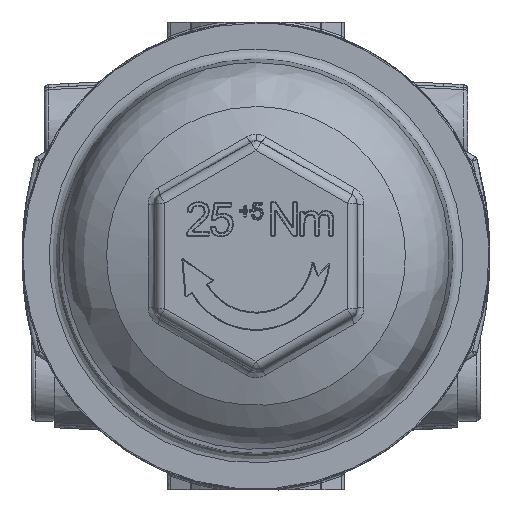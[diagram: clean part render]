
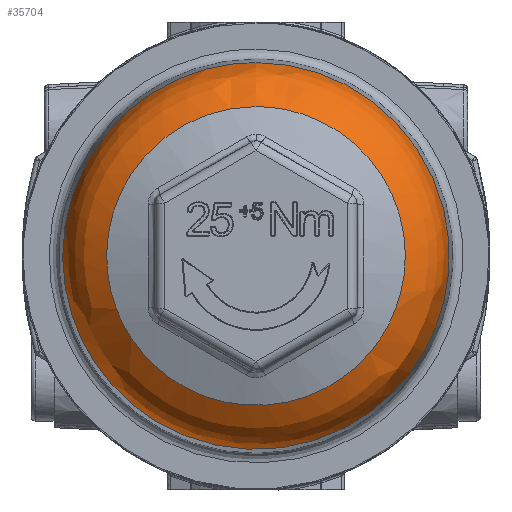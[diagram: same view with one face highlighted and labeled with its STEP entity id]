
A CAD part, front view. The second image highlights one B-rep face of the part: STEP entity #35704.
In plain terms, the highlighted free-form (B-spline) face has degree [2, 2] with [7, 3] control points.
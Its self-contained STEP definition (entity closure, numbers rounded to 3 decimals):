
#35602=CARTESIAN_POINT('V79',(0.0,-131.099,
   30.318));
#35603=VERTEX_POINT('V79',#35602);
#35617=CARTESIAN_POINT('E113',(0.0,-131.099,
   30.318));
#35618=CARTESIAN_POINT('E113',(-52.512,
   -131.099,30.318));
#35619=CARTESIAN_POINT('E113',(-26.256,
   -131.099,-15.159));
#35620=CARTESIAN_POINT('E113',(0.,-131.099,
   -60.636));
#35621=CARTESIAN_POINT('E113',(26.256,
   -131.099,-15.159));
#35622=CARTESIAN_POINT('E113',(52.512,
   -131.099,30.318));
#35623=CARTESIAN_POINT('E113',(0.0,-131.099,
   30.318));
#35631=(BOUNDED_CURVE()B_SPLINE_CURVE(2,(#35617,#35618,#35619,
   #35620,#35621,#35622,#35623),.CIRCULAR_ARC.,.T.,.U.)
   B_SPLINE_CURVE_WITH_KNOTS((3,2,2,3),(0.0,6.584,
   13.168,19.753),.UNSPECIFIED.)CURVE()
   GEOMETRIC_REPRESENTATION_ITEM()RATIONAL_B_SPLINE_CURVE((1.0,
   0.5,1.0,0.5,1.0,0.5,1.0)
   )REPRESENTATION_ITEM('E113'));
#35632=EDGE_CURVE('E113',#35603,#35603,#35631,.T.);
#35639=CARTESIAN_POINT('F52',(0.0,-131.099,
   30.318));
#35640=CARTESIAN_POINT('F52',(52.512,
   -131.099,30.318));
#35641=CARTESIAN_POINT('F52',(26.256,
   -131.099,-15.159));
#35642=CARTESIAN_POINT('F52',(0.,-131.099,
   -60.636));
#35643=CARTESIAN_POINT('F52',(-26.256,
   -131.099,-15.159));
#35644=CARTESIAN_POINT('F52',(-52.512,
   -131.099,30.318));
#35645=CARTESIAN_POINT('F52',(0.0,-131.099,
   30.318));
#35646=CARTESIAN_POINT('F52',(0.0,-127.187,
   39.169));
#35647=CARTESIAN_POINT('F52',(67.843,
   -127.187,39.169));
#35648=CARTESIAN_POINT('F52',(33.922,
   -127.187,-19.585));
#35649=CARTESIAN_POINT('F52',(0.,-127.187,
   -78.339));
#35650=CARTESIAN_POINT('F52',(-33.922,
   -127.187,-19.585));
#35651=CARTESIAN_POINT('F52',(-67.843,
   -127.187,39.169));
#35652=CARTESIAN_POINT('F52',(0.0,-127.187,
   39.169));
#35653=CARTESIAN_POINT('F52',(0.0,-117.51,
   39.254));
#35654=CARTESIAN_POINT('F52',(67.99,
   -117.51,39.254));
#35655=CARTESIAN_POINT('F52',(33.995,
   -117.51,-19.627));
#35656=CARTESIAN_POINT('F52',(0.,-117.51,
   -78.508));
#35657=CARTESIAN_POINT('F52',(-33.995,
   -117.51,-19.627));
#35658=CARTESIAN_POINT('F52',(-67.99,
   -117.51,39.254));
#35659=CARTESIAN_POINT('F52',(0.0,-117.51,
   39.254));
#35667=(BOUNDED_SURFACE()B_SPLINE_SURFACE(2,2,((#35639,#35646,
   #35653),(#35640,#35647,#35654),(#35641,#35648,#35655),(
   #35642,#35649,#35656),(#35643,#35650,#35657),(#35644,#35651,
   #35658),(#35645,#35652,#35659)),.TOROIDAL_SURF.,.T.,.F.,.U.)
   B_SPLINE_SURFACE_WITH_KNOTS((3,2,2,3),(3,3),(0.0,
   6.584,13.168,19.753),(0.0,
   1.0),.UNSPECIFIED.)GEOMETRIC_REPRESENTATION_ITEM()
   RATIONAL_B_SPLINE_SURFACE(((1.0,0.84,1.0),(
   0.5,0.42,0.5),(1.0,
   0.84,1.0),(0.5,0.42,
   0.5),(1.0,0.84,1.0),(
   0.5,0.42,0.5),(1.0,
   0.84,1.0)))REPRESENTATION_ITEM('F52')SURFACE());
#35668=CARTESIAN_POINT('V90',(0.0,-117.51,
   39.254));
#35669=VERTEX_POINT('V90',#35668);
#35670=CARTESIAN_POINT('E147',(0.0,-117.51,
   39.254));
#35671=CARTESIAN_POINT('E147',(0.0,-127.187,
   39.169));
#35672=CARTESIAN_POINT('E147',(0.0,-131.099,
   30.318));
#35680=(BOUNDED_CURVE()B_SPLINE_CURVE(2,(#35670,#35671,#35672),
   .CIRCULAR_ARC.,.F.,.U.)CURVE()GEOMETRIC_REPRESENTATION_ITEM()
   QUASI_UNIFORM_CURVE()RATIONAL_B_SPLINE_CURVE((1.0,
   0.84,1.0))REPRESENTATION_ITEM('E147'));
#35681=EDGE_CURVE('E147',#35669,#35603,#35680,.T.);
#35682=ORIENTED_EDGE('E147',*,*,#35681,.T.);
#35683=ORIENTED_EDGE('E113',*,*,#35632,.F.);
#35684=ORIENTED_EDGE('E147',*,*,#35681,.F.);
#35685=CARTESIAN_POINT('E146',(0.0,-117.51,
   39.254));
#35686=CARTESIAN_POINT('E146',(67.99,
   -117.51,39.254));
#35687=CARTESIAN_POINT('E146',(33.995,
   -117.51,-19.627));
#35688=CARTESIAN_POINT('E146',(0.,-117.51,
   -78.508));
#35689=CARTESIAN_POINT('E146',(-33.995,
   -117.51,-19.627));
#35690=CARTESIAN_POINT('E146',(-67.99,
   -117.51,39.254));
#35691=CARTESIAN_POINT('E146',(0.0,-117.51,
   39.254));
#35699=(BOUNDED_CURVE()B_SPLINE_CURVE(2,(#35685,#35686,#35687,
   #35688,#35689,#35690,#35691),.CIRCULAR_ARC.,.T.,.U.)
   B_SPLINE_CURVE_WITH_KNOTS((3,2,2,3),(0.0,1.643,
   3.286,4.929),.UNSPECIFIED.)CURVE()
   GEOMETRIC_REPRESENTATION_ITEM()RATIONAL_B_SPLINE_CURVE((1.0,
   0.5,1.0,0.5,1.0,0.5,1.0)
   )REPRESENTATION_ITEM('E146'));
#35700=EDGE_CURVE('E146',#35669,#35669,#35699,.T.);
#35701=ORIENTED_EDGE('E146',*,*,#35700,.F.);
#35702=EDGE_LOOP('F52',(#35682,#35683,#35684,#35701));
#35703=FACE_OUTER_BOUND('F52',#35702,.T.);
#35704=ADVANCED_FACE('F52',(#35703),#35667,.T.);
